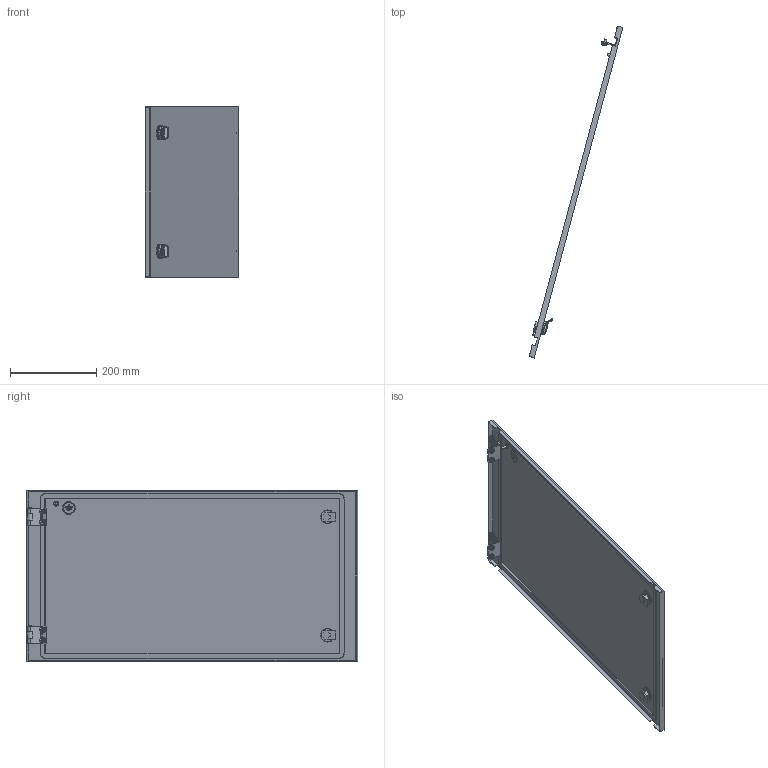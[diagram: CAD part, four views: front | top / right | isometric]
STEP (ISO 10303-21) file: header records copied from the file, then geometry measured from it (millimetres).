
FILE_DESCRIPTION (( 'STEP AP214' ), '1' );
FILE_NAME ('FO-00-ESD-040-080 Äâåðü ñåêöèîííàÿ âíåøíÿÿ 400õ800 ìì.STEP', '2025-08-20T06:32:00', ( '' ), ( '' ), 'SwSTEP 2.0', 'SolidWorks 2023', '' );
FILE_SCHEMA (( 'AUTOMOTIVE_DESIGN' ));
Length unit declared in the file: millimetre
Products named in the file (4): Дверь секционная внешняя 400х800 мм.STEP; FO-00-ESD-040-080 Дверь секционная внешняя 400х800 мм.STEP; Петля_12.STEP; FO-00-ESD-040-080 Дверь секционная внешняя 400х800 мм
Assembly tree (4 placements, depth 3):
  FO-00-ESD-040-080 Дверь секционная внешняя 400х800 мм
    FO-00-ESD-040-080 Дверь секционная внешняя 400х800 мм.STEP
      Дверь секционная внешняя 400х800 мм.STEP
      Петля_12.STEP  x2
Bounding box: 217.64 x 771.19 x 396 mm (x, y, z)
Volume: 809139.7 mm3; surface area: 723137.4 mm2
Topology: 3 solids, 12 shells, 707 faces, 1809 edges, 1168 vertices
Faces by surface type: plane 343, cylinder 268, torus 34, cone 32, bspline 30
Entity records: 20694 total; most frequent: CARTESIAN_POINT 5778, ORIENTED_EDGE 3108, DIRECTION 3078, EDGE_CURVE 1554, AXIS2_PLACEMENT_3D 1056, VERTEX_POINT 1006, LINE 966, VECTOR 966
